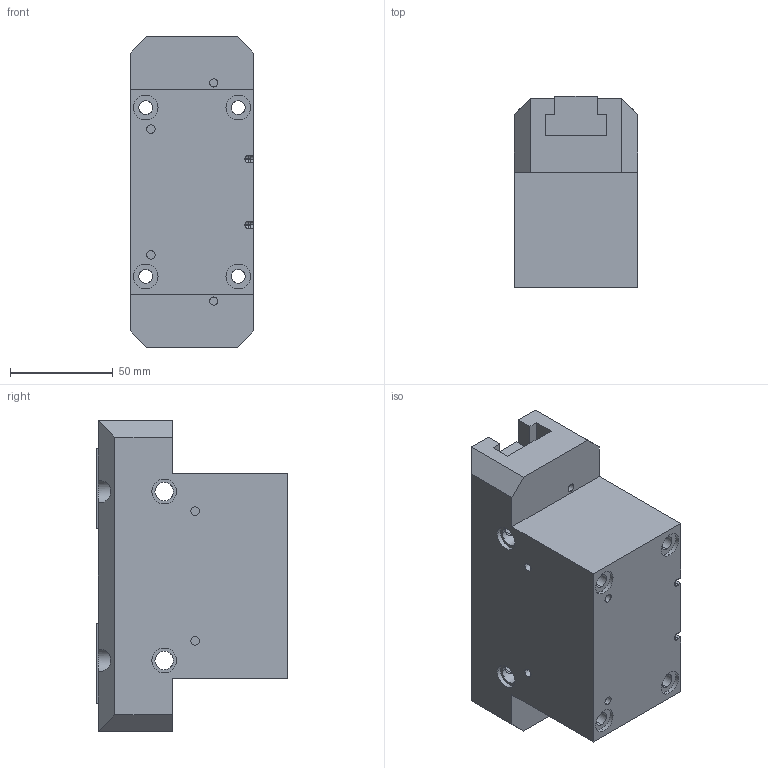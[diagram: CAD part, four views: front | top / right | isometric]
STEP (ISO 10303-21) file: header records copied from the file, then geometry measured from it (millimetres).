
FILE_DESCRIPTION (( 'STEP AP203' ), '1' );
FILE_NAME ('dh5526nc.STEP', '2011-08-03T09:06:15', ( 'Stefano' ), ( 'Gimatic' ), 'SwSTEP 2.0', 'SolidWorks 2010', '' );
FILE_SCHEMA (( 'CONFIG_CONTROL_DESIGN' ));
Length unit declared in the file: millimetre
Products named in the file (3): dh5526nc; dh55_griffa; dh55_corpoprolungato
Assembly tree (3 placements, depth 2):
  dh5526nc
    dh55_corpoprolungato
    dh55_griffa  x2
Bounding box: 60 x 93 x 151 mm (x, y, z)
Volume: 600468.1 mm3; surface area: 85201.2 mm2
Topology: 3 solids, 3 shells, 192 faces, 504 edges, 320 vertices
Faces by surface type: cylinder 90, plane 90, cone 8, sphere 4
Entity records: 5951 total; most frequent: CARTESIAN_POINT 1452, DIRECTION 878, ORIENTED_EDGE 868, EDGE_CURVE 434, AXIS2_PLACEMENT_3D 316, VERTEX_POINT 282, VECTOR 246, LINE 246
